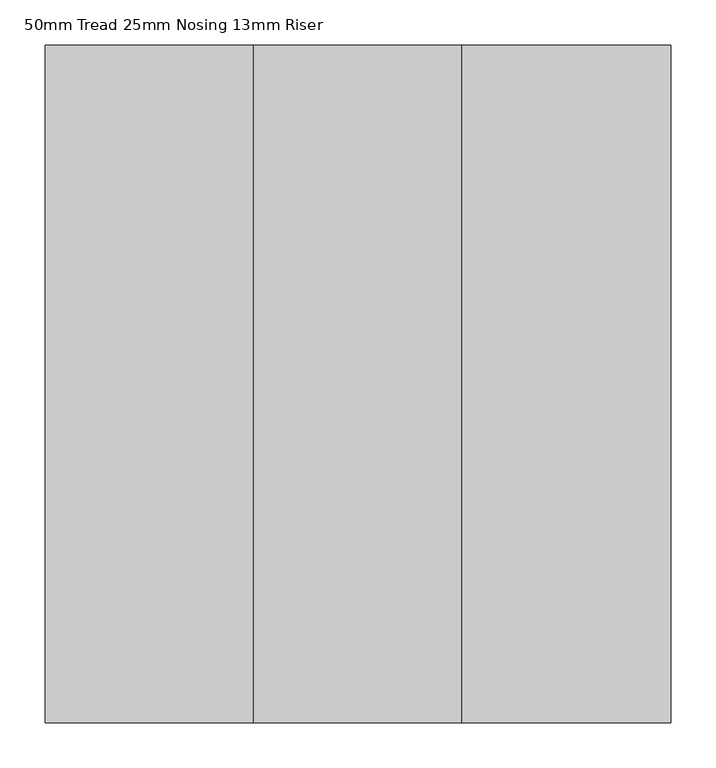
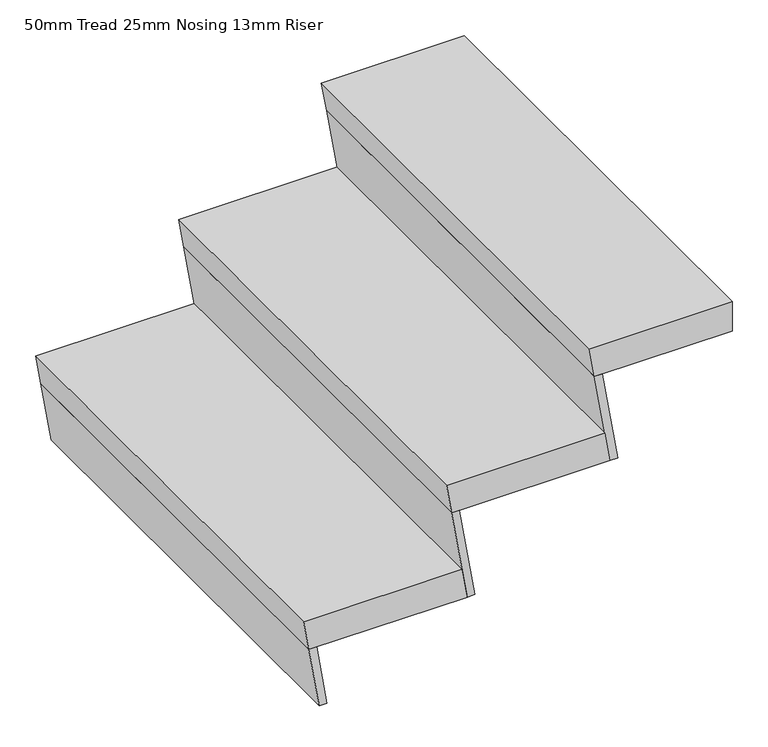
"""IFC4 building model written with IfcOpenShell, lengths in millimetres: stair flight geometry, 50mm Tread 25mm Nosing 13mm Riser."""

from ifc_helpers import new_model, si_unit, frame, origin, place, context, project, spatial, polyline, outline, extrude, source, transform, mapped, element, save


def stair_flight_50mm_tread_25mm_nosing_13mm_riser_b3e14c1b(model_context):
    return source(origin(), model_context, "Body", "SweptSolid", [
        extrude(outline(polyline([(-2438.4, -1947.7333), (-2438.4, -2203.45), (-2488.4, -2195.2479003), (-2488.4, -1939.5312003), (-2438.4, -1947.7333)])), frame((0.0, 15963.9, 0.0), z_axis=(0.0, 1.0, 0.0), x_axis=(0.0, 0.0, 1.0)), (0.0, 0.0, 1.0), 749.3),
        extrude(outline(polyline([(-2488.4, -2195.2479003), (-2590.8, -2178.45), (-2590.8, -2165.7829304), (-2488.4, -2182.5808307), (-2488.4, -2195.2479003)])), frame((0.0, 15963.9, 0.0), z_axis=(0.0, 1.0, 0.0), x_axis=(0.0, 0.0, 1.0)), (0.0, 0.0, 1.0), 749.3),
        extrude(outline(polyline([(-2336.0, -1964.5312003), (-2488.4, -1939.5312003), (-2488.4, -1926.8641307), (-2336.0, -1951.8641307), (-2336.0, -1964.5312003)])), frame((0.0, 15963.9, 0.0), z_axis=(0.0, 1.0, 0.0), x_axis=(0.0, 0.0, 1.0)), (0.0, 0.0, 1.0), 749.3),
        extrude(outline(polyline([(-2286.0, -1717.0167), (-2286.0, -1972.7333), (-2336.0, -1964.5312003), (-2336.0, -1708.8146003), (-2286.0, -1717.0167)])), frame((0.0, 15963.9, 0.0), z_axis=(0.0, 1.0, 0.0), x_axis=(0.0, 0.0, 1.0)), (0.0, 0.0, 1.0), 749.3),
        extrude(outline(polyline([(-2183.6, -1733.8146003), (-2336.0, -1708.8146003), (-2336.0, -1696.1475307), (-2183.6, -1721.1475307), (-2183.6, -1733.8146003)])), frame((0.0, 15963.9, 0.0), z_axis=(0.0, 1.0, 0.0), x_axis=(0.0, 0.0, 1.0)), (0.0, 0.0, 1.0), 749.3),
        extrude(outline(polyline([(-2133.6, -1511.3), (-2133.6, -1742.0167), (-2183.6, -1733.8146003), (-2183.6, -1511.3), (-2133.6, -1511.3)])), frame((0.0, 15963.9, 0.0), z_axis=(0.0, 1.0, 0.0), x_axis=(0.0, 0.0, 1.0)), (0.0, 0.0, 1.0), 749.3),
    ])


if __name__ == "__main__":
    model = new_model("IFC4")
    model_context = context("Model", 3, world=origin())
    ifc_project = project(units=[si_unit("LENGTHUNIT", "METRE", prefix="MILLI")], contexts=[model_context])
    site = spatial("IfcSite", under=ifc_project)
    building = spatial("IfcBuilding", under=site)
    placement = place(None, origin())
    stair_flight_50mm_tread_25mm_nosing_13mm_riser_shape = stair_flight_50mm_tread_25mm_nosing_13mm_riser_b3e14c1b(model_context)
    element("IfcStairFlight", 1, ObjectType="50mm Tread 25mm Nosing 13mm Riser", at=placement, inside=building, context=model_context, shape_type="MappedRepresentation", body=[
        mapped(stair_flight_50mm_tread_25mm_nosing_13mm_riser_shape, transform((0.0, 0.0, 0.0), x_axis=(1.0, 0.0, 0.0), y_axis=(0.0, 1.0, 0.0), z_axis=(0.0, 0.0, 1.0))),
    ])
    save(model, "model.ifc")
